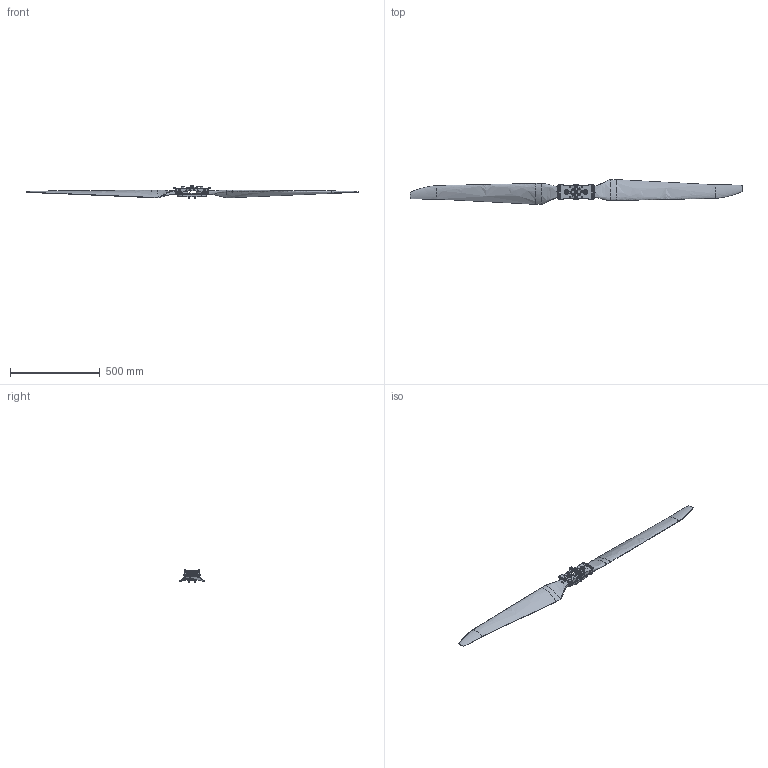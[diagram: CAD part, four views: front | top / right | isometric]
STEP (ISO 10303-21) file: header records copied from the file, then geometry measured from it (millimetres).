
FILE_DESCRIPTION (( 'STEP AP214' ), '1' );
FILE_NAME ('MFC 73X25-CW-3Dͼ-20260922.STEP', '2026-09-22T10:51:02', ( '' ), ( '' ), 'SwSTEP 2.0', 'SolidWorks 2021', '' );
FILE_SCHEMA (( 'AUTOMOTIVE_DESIGN' ));
Length unit declared in the file: millimetre
Products named in the file (15): 124400077BB; 104110890AA; MFC 73X25-CW-3Dͼ-20260922; 104110181AA^7334殏詁蛌眻_GB_FASTENER_SCREWS_HSHCS M3X10-N; 171070569AB-樓酗; 104130300CA; 111350260AB; 销钉-D22×D19×38.5-本色; 104111022AA; 111350261AB; 104120128AA; 104150105AA; 124410519AB; 111350262AB; 111390261AB-勤俋
Assembly tree (33 placements, depth 2):
  MFC 73X25-CW-3Dͼ-20260922
    111350261AB
    销钉-D22×D19×38.5-本色  x2
    124400077BB  x4
    104130300CA  x4
    111390261AB-勤俋  x2
    104111022AA  x4
    104150105AA
    111350262AB  x2
    104110890AA  x2
    124410519AB  x4
    111350260AB
    104120128AA
    104110181AA^7334殏詁蛌眻_GB_FASTENER_SCREWS_HSHCS M3X10-N  x4
    171070569AB-樓酗
Bounding box: 1854.2 x 140.03 x 75 mm (x, y, z)
Volume: 1546604.8 mm3; surface area: 500492.4 mm2
Topology: 43 solids, 43 shells, 2732 faces, 7026 edges, 4464 vertices
Faces by surface type: plane 1313, cylinder 800, cone 249, bspline 233, torus 102, sphere 35
Entity records: 220715 total; most frequent: CARTESIAN_POINT 181104, ORIENTED_EDGE 8340, DIRECTION 7752, EDGE_CURVE 4170, AXIS2_PLACEMENT_3D 2759, VERTEX_POINT 2633, VECTOR 2234, LINE 2234
